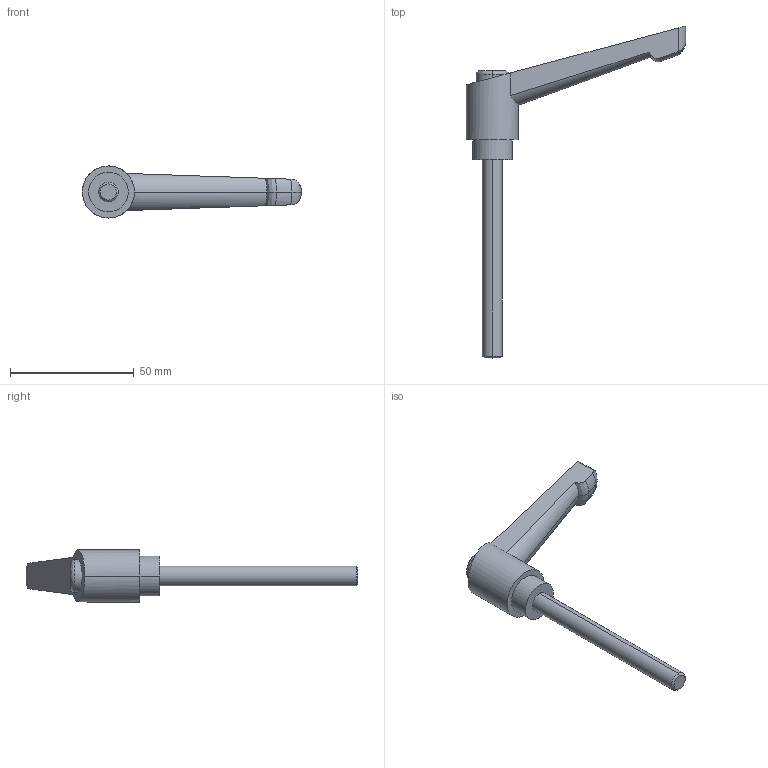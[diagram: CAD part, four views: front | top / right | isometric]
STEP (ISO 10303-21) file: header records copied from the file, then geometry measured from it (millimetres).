
FILE_DESCRIPTION (( 'STEP AP214' ), '1' );
FILE_NAME ('2.9017 Kiinnitysvipu M8 AL L80 ulkokierteellä.STEP', '2025-09-10T08:13:43', ( '' ), ( '' ), 'SwSTEP 2.0', 'SolidWorks 2025', '' );
FILE_SCHEMA (( 'AUTOMOTIVE_DESIGN' ));
Length unit declared in the file: millimetre
Products named in the file (1): 2.9017 Kiinnitysvipu M8 AL L80 ulkokierteellä
Bounding box: 88.5 x 134 x 21 mm (x, y, z)
Volume: 23496 mm3; surface area: 7826.3 mm2
Topology: 1 solids, 1 shells, 55 faces, 137 edges, 86 vertices
Faces by surface type: cylinder 31, cone 11, plane 7, bspline 4, torus 2
Entity records: 2546 total; most frequent: CARTESIAN_POINT 980, ORIENTED_EDGE 270, DIRECTION 191, EDGE_CURVE 135, VERTEX_POINT 86, AXIS2_PLACEMENT_3D 77, B_SPLINE_CURVE_WITH_KNOTS 61, EDGE_LOOP 59
